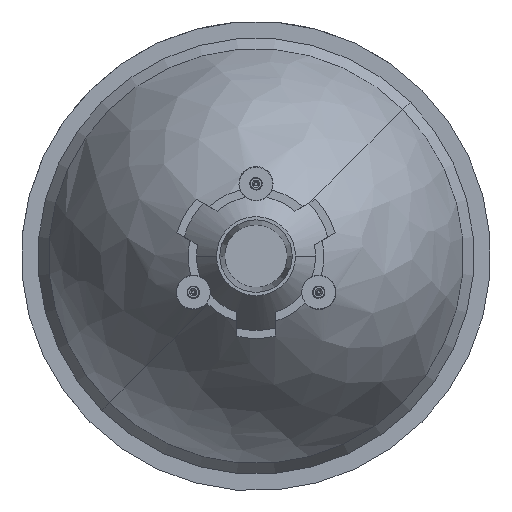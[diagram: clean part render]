
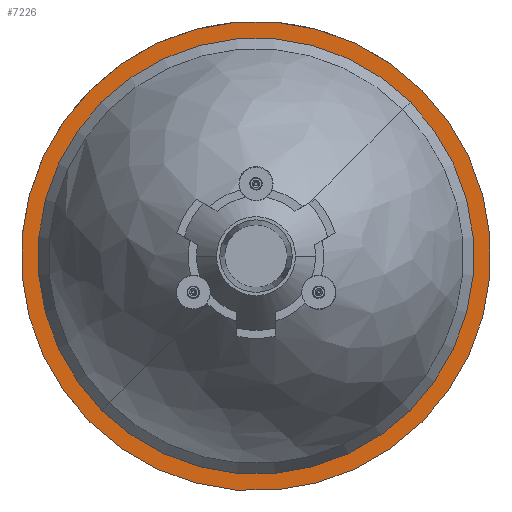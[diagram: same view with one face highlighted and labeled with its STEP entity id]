
A CAD part, front view. The second image highlights one B-rep face of the part: STEP entity #7226.
In plain terms, the highlighted planar face has unit normal (0, -1, 0).
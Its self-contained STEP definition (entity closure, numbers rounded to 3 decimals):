
#299 = CARTESIAN_POINT ( 'NONE',  ( 29.698, -1.6, 29.698 ) ) ;
#474 = CARTESIAN_POINT ( 'NONE',  ( -27.58, -1.6, -27.58 ) ) ;
#531 = CARTESIAN_POINT ( 'NONE',  ( -29.698, -1.6, -29.698 ) ) ;
#1232 = EDGE_CURVE ( 'NONE', #4172, #4331, #6907, .T. ) ;
#1311 = EDGE_CURVE ( 'NONE', #4365, #4107, #6932, .T. ) ;
#1595 = ORIENTED_EDGE ( 'NONE', *, *, #1311, .F. ) ;
#1677 = ORIENTED_EDGE ( 'NONE', *, *, #7461, .F. ) ;
#1678 = ORIENTED_EDGE ( 'NONE', *, *, #7511, .F. ) ;
#2284 = ORIENTED_EDGE ( 'NONE', *, *, #1232, .F. ) ;
#2440 = EDGE_LOOP ( 'NONE', ( #1677, #1595 ) ) ;
#2585 = EDGE_LOOP ( 'NONE', ( #2284, #1678 ) ) ;
#3499 = CARTESIAN_POINT ( 'NONE',  ( 27.58, -1.6, 27.58 ) ) ;
#4107 = VERTEX_POINT ( 'NONE', #3499 ) ;
#4172 = VERTEX_POINT ( 'NONE', #531 ) ;
#4331 = VERTEX_POINT ( 'NONE', #299 ) ;
#4365 = VERTEX_POINT ( 'NONE', #474 ) ;
#4739 = CIRCLE ( 'NONE', #4851, 39.005 ) ;
#4851 = AXIS2_PLACEMENT_3D ( 'NONE', #10100, #9539, #9790 ) ;
#4891 = AXIS2_PLACEMENT_3D ( 'NONE', #9569, #9608, #9375 ) ;
#4895 = CIRCLE ( 'NONE', #4891, 42. ) ;
#6207 = FACE_BOUND ( 'NONE', #2440, .T. ) ;
#6236 = FACE_OUTER_BOUND ( 'NONE', #2585, .T. ) ;
#6238 = PLANE ( 'NONE',  #9655 ) ;
#6246 = CARTESIAN_POINT ( 'NONE',  ( -42., -1.6, 0. ) ) ;
#6247 = DIRECTION ( 'NONE',  ( 0., 1., 0. ) ) ;
#6250 = DIRECTION ( 'NONE',  ( 0.707, 0., 0.707 ) ) ;
#6321 = DIRECTION ( 'NONE',  ( 0.707, 0., 0.707 ) ) ;
#6322 = DIRECTION ( 'NONE',  ( 0., -1., 0. ) ) ;
#6423 = CARTESIAN_POINT ( 'NONE',  ( 0., -1.6, 0. ) ) ;
#6481 = DIRECTION ( 'NONE',  ( 0., 1., 0. ) ) ;
#6616 = DIRECTION ( 'NONE',  ( -0.707, 0., -0.707 ) ) ;
#6655 = CARTESIAN_POINT ( 'NONE',  ( 0., -1.6, 0. ) ) ;
#6907 = CIRCLE ( 'NONE', #7031, 42. ) ;
#6932 = CIRCLE ( 'NONE', #7103, 39.005 ) ;
#7031 = AXIS2_PLACEMENT_3D ( 'NONE', #6655, #6481, #6616 ) ;
#7103 = AXIS2_PLACEMENT_3D ( 'NONE', #6423, #6322, #6321 ) ;
#7226 = ADVANCED_FACE ( 'NONE', ( #6236, #6207 ), #6238, .F. ) ;
#7461 = EDGE_CURVE ( 'NONE', #4107, #4365, #4739, .T. ) ;
#7511 = EDGE_CURVE ( 'NONE', #4331, #4172, #4895, .T. ) ;
#9375 = DIRECTION ( 'NONE',  ( -0.707, 0., -0.707 ) ) ;
#9539 = DIRECTION ( 'NONE',  ( 0., -1., 0. ) ) ;
#9569 = CARTESIAN_POINT ( 'NONE',  ( 0., -1.6, 0. ) ) ;
#9608 = DIRECTION ( 'NONE',  ( 0., 1., 0. ) ) ;
#9655 = AXIS2_PLACEMENT_3D ( 'NONE', #6246, #6247, #6250 ) ;
#9790 = DIRECTION ( 'NONE',  ( 0.707, 0., 0.707 ) ) ;
#10100 = CARTESIAN_POINT ( 'NONE',  ( 0., -1.6, 0. ) ) ;
